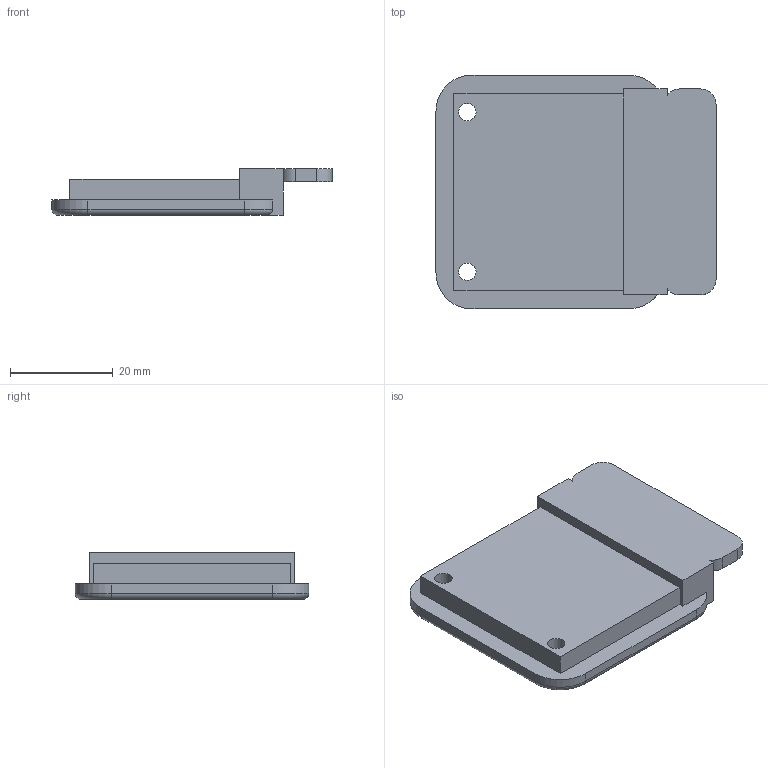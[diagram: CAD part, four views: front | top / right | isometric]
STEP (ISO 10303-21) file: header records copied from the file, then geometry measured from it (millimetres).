
FILE_DESCRIPTION(('Open CASCADE Model'),'2;1');
FILE_NAME('Open CASCADE Shape Model','2026-11-26T14:02:23',('Author'),( 'Open CASCADE'),'Open CASCADE STEP processor 7.9','Open CASCADE 7.9' ,'Unknown');
FILE_SCHEMA(('AUTOMOTIVE_DESIGN { 1 0 10303 214 1 1 1 1 }'));
Length unit declared in the file: millimetre
Products named in the file (1): Open CASCADE STEP translator 7.9 2
Bounding box: 54.4 x 45.4 x 9.1 mm (x, y, z)
Volume: 13859.2 mm3; surface area: 6240.1 mm2
Topology: 1 solids, 1 shells, 39 faces, 99 edges, 64 vertices
Faces by surface type: plane 20, cylinder 15, torus 4
Full cylindrical faces by diameter (mm): 3.4 x2, 6 x2
Entity records: 2580 total; most frequent: CARTESIAN_POINT 611, DIRECTION 359, ORIENTED_EDGE 198, PCURVE 198, DEFINITIONAL_REPRESENTATION 198, LINE 197, VECTOR 197, EDGE_CURVE 99
